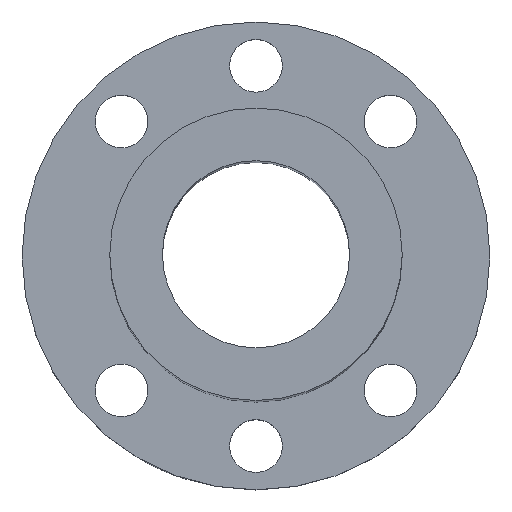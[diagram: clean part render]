
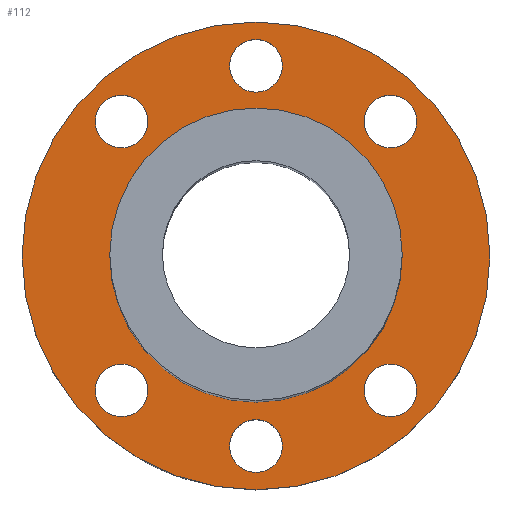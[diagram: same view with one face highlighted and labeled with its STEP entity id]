
A CAD part, top view. The second image highlights one B-rep face of the part: STEP entity #112.
In plain terms, the highlighted planar face has unit normal (0, 0, 1).
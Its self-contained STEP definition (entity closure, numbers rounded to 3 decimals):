
#99=PLANE('',#355);
#112=ADVANCED_FACE('',(#159,#160,#161,#162,#163,#164,#165,#166),#99,.T.);
#159=FACE_BOUND('',#203,.T.);
#160=FACE_BOUND('',#204,.T.);
#161=FACE_BOUND('',#205,.T.);
#162=FACE_BOUND('',#206,.T.);
#163=FACE_BOUND('',#207,.T.);
#164=FACE_BOUND('',#208,.T.);
#165=FACE_BOUND('',#209,.T.);
#166=FACE_BOUND('',#210,.T.);
#203=EDGE_LOOP('',(#247));
#204=EDGE_LOOP('',(#248));
#205=EDGE_LOOP('',(#249));
#206=EDGE_LOOP('',(#250));
#207=EDGE_LOOP('',(#251));
#208=EDGE_LOOP('',(#252));
#209=EDGE_LOOP('',(#253));
#210=EDGE_LOOP('',(#254));
#247=ORIENTED_EDGE('',*,*,#284,.T.);
#248=ORIENTED_EDGE('',*,*,#301,.F.);
#249=ORIENTED_EDGE('',*,*,#300,.T.);
#250=ORIENTED_EDGE('',*,*,#299,.F.);
#251=ORIENTED_EDGE('',*,*,#286,.T.);
#252=ORIENTED_EDGE('',*,*,#298,.T.);
#253=ORIENTED_EDGE('',*,*,#297,.F.);
#254=ORIENTED_EDGE('',*,*,#302,.T.);
#262=VERTEX_POINT('',#437);
#264=VERTEX_POINT('',#499);
#275=VERTEX_POINT('',#582);
#276=VERTEX_POINT('',#585);
#277=VERTEX_POINT('',#588);
#278=VERTEX_POINT('',#591);
#279=VERTEX_POINT('',#594);
#280=VERTEX_POINT('',#597);
#284=EDGE_CURVE('',#262,#262,#306,.T.);
#286=EDGE_CURVE('',#264,#264,#307,.T.);
#297=EDGE_CURVE('',#275,#275,#317,.T.);
#298=EDGE_CURVE('',#276,#276,#318,.T.);
#299=EDGE_CURVE('',#277,#277,#319,.T.);
#300=EDGE_CURVE('',#278,#278,#320,.T.);
#301=EDGE_CURVE('',#279,#279,#321,.T.);
#302=EDGE_CURVE('',#280,#280,#322,.T.);
#306=CIRCLE('',#327,40.);
#307=CIRCLE('',#329,25.);
#317=CIRCLE('',#343,4.5);
#318=CIRCLE('',#345,4.5);
#319=CIRCLE('',#347,4.5);
#320=CIRCLE('',#349,4.5);
#321=CIRCLE('',#351,4.5);
#322=CIRCLE('',#353,4.5);
#327=AXIS2_PLACEMENT_3D('',#436,#365,#366);
#329=AXIS2_PLACEMENT_3D('',#498,#369,#370);
#343=AXIS2_PLACEMENT_3D('',#581,#397,#398);
#345=AXIS2_PLACEMENT_3D('',#584,#401,#402);
#347=AXIS2_PLACEMENT_3D('',#587,#405,#406);
#349=AXIS2_PLACEMENT_3D('',#590,#409,#410);
#351=AXIS2_PLACEMENT_3D('',#593,#413,#414);
#353=AXIS2_PLACEMENT_3D('',#596,#417,#418);
#355=AXIS2_PLACEMENT_3D('',#599,#421,#422);
#365=DIRECTION('',(0.,0.,1.));
#366=DIRECTION('',(1.,0.,0.));
#369=DIRECTION('',(0.,0.,-1.));
#370=DIRECTION('',(1.,0.,0.));
#397=DIRECTION('',(0.,0.,1.));
#398=DIRECTION('',(1.,0.,0.));
#401=DIRECTION('',(0.,0.,-1.));
#402=DIRECTION('',(1.,0.,0.));
#405=DIRECTION('',(0.,0.,1.));
#406=DIRECTION('',(-1.,0.,0.));
#409=DIRECTION('',(0.,0.,-1.));
#410=DIRECTION('',(1.,0.,0.));
#413=DIRECTION('',(0.,0.,1.));
#414=DIRECTION('',(1.,0.,0.));
#417=DIRECTION('',(0.,0.,-1.));
#418=DIRECTION('',(-1.,0.,0.));
#421=DIRECTION('',(0.,0.,1.));
#422=DIRECTION('',(1.,0.,0.));
#436=CARTESIAN_POINT('',(0.,0.,12.));
#437=CARTESIAN_POINT('',(40.,0.,12.));
#498=CARTESIAN_POINT('',(0.,0.,12.));
#499=CARTESIAN_POINT('',(25.,0.,12.));
#581=CARTESIAN_POINT('',(-22.981,22.981,12.));
#582=CARTESIAN_POINT('',(-18.481,22.981,12.));
#584=CARTESIAN_POINT('',(0.,-32.5,12.));
#585=CARTESIAN_POINT('',(4.5,-32.5,12.));
#587=CARTESIAN_POINT('',(22.981,-22.981,12.));
#588=CARTESIAN_POINT('',(18.481,-22.981,12.));
#590=CARTESIAN_POINT('',(-22.981,-22.981,12.));
#591=CARTESIAN_POINT('',(-18.481,-22.981,12.));
#593=CARTESIAN_POINT('',(0.,32.5,12.));
#594=CARTESIAN_POINT('',(4.5,32.5,12.));
#596=CARTESIAN_POINT('',(22.981,22.981,12.));
#597=CARTESIAN_POINT('',(18.481,22.981,12.));
#599=CARTESIAN_POINT('',(0.,16.25,12.));
